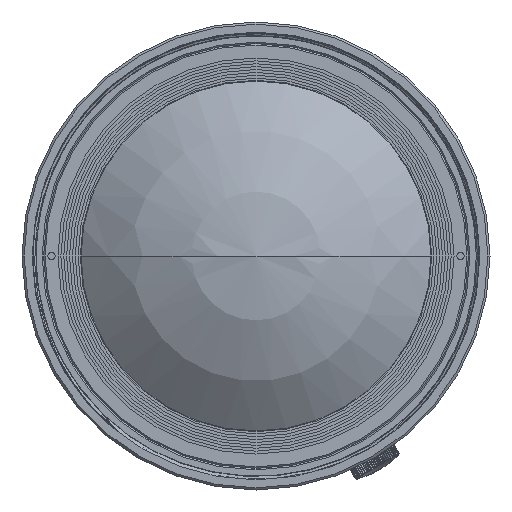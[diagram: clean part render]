
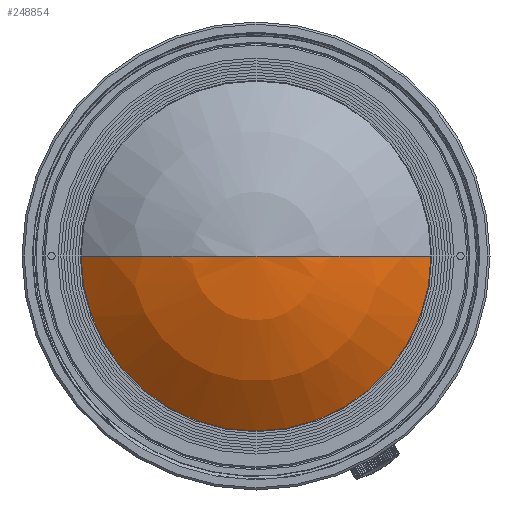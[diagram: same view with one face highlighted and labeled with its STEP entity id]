
A CAD part, left-side view. The second image highlights one B-rep face of the part: STEP entity #248854.
In plain terms, the highlighted spherical face has radius 37.608 mm.
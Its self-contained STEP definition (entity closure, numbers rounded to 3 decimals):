
#248769=CARTESIAN_POINT('',(37.608,0.,0.));
#248770=DIRECTION('',(0.,0.,1.));
#248771=DIRECTION('',(-1.,0.,0.));
#248772=AXIS2_PLACEMENT_3D('',#248769,#248770,#248771);
#248777=CARTESIAN_POINT('',(37.608,0.,0.));
#248778=DIRECTION('',(0.,0.,-1.));
#248779=DIRECTION('',(-1.,0.,0.));
#248780=AXIS2_PLACEMENT_3D('',#248777,#248778,#248779);
#248823=CARTESIAN_POINT('',(9.336,0.,0.));
#248824=DIRECTION('',(1.,0.,0.));
#248825=DIRECTION('',(0.,-1.,0.));
#248826=AXIS2_PLACEMENT_3D('',#248823,#248824,#248825);
#248831=CARTESIAN_POINT('',(0.,0.,0.));
#248832=CARTESIAN_POINT('',(9.336,-24.8,0.));
#248833=VERTEX_POINT('',#248831);
#248834=VERTEX_POINT('',#248832);
#248835=CARTESIAN_POINT('',(9.336,24.8,0.));
#248836=VERTEX_POINT('',#248835);
#248841=CARTESIAN_POINT('',(37.608,0.,0.));
#248842=DIRECTION('',(1.,0.,0.));
#248843=DIRECTION('',(0.,-1.,0.));
#248844=AXIS2_PLACEMENT_3D('',#248841,#248842,#248843);
#248845=SPHERICAL_SURFACE('',#248844,37.608);
#248847=ORIENTED_EDGE('',*,*,#248846,.T.);
#248849=ORIENTED_EDGE('',*,*,#248848,.T.);
#248851=ORIENTED_EDGE('',*,*,#248850,.F.);
#248852=EDGE_LOOP('',(#248847,#248849,#248851));
#248853=FACE_OUTER_BOUND('',#248852,.F.);
#248773=CIRCLE('',#248772,37.608);
#248781=CIRCLE('',#248780,37.608);
#248827=CIRCLE('',#248826,24.8);
#248846=EDGE_CURVE('',#248833,#248834,#248773,.T.);
#248848=EDGE_CURVE('',#248834,#248836,#248827,.T.);
#248850=EDGE_CURVE('',#248833,#248836,#248781,.T.);
#248854=ADVANCED_FACE('',(#248853),#248845,.T.);
